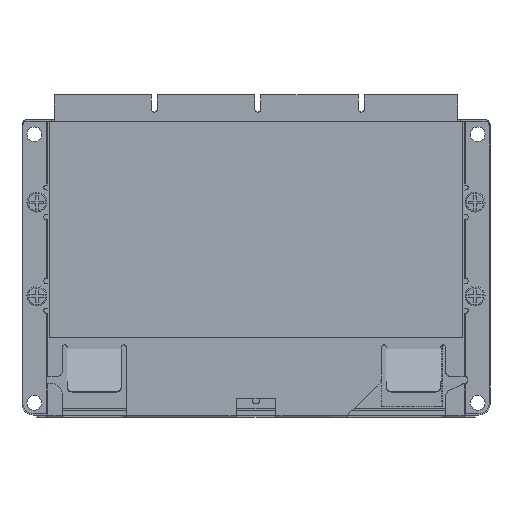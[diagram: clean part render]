
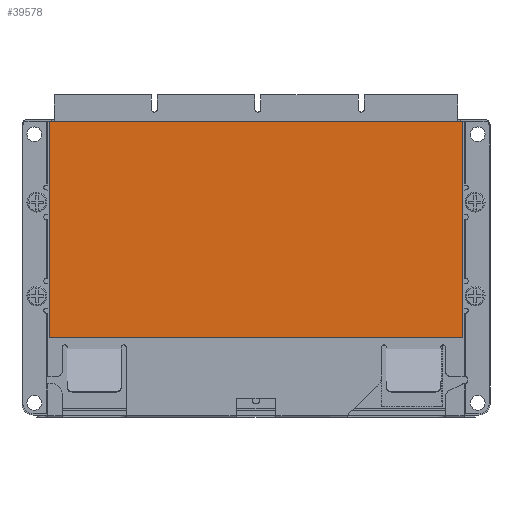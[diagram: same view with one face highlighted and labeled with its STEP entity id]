
A CAD part, front view. The second image highlights one B-rep face of the part: STEP entity #39578.
In plain terms, the highlighted planar face has unit normal (0, -1, 0).
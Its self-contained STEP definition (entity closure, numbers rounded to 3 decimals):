
#39463=DIRECTION('',(0.,0.,1.));
#39464=VECTOR('',#39463,44.);
#39465=CARTESIAN_POINT('',(-42.,-2.3,-49.3));
#39466=LINE('',#39465,#39464);
#39467=DIRECTION('',(1.,0.,0.));
#39468=VECTOR('',#39467,84.);
#39469=CARTESIAN_POINT('',(-42.,-2.3,-5.3));
#39470=LINE('',#39469,#39468);
#39471=DIRECTION('',(0.,0.,-1.));
#39472=VECTOR('',#39471,44.);
#39473=CARTESIAN_POINT('',(42.,-2.3,-5.3));
#39474=LINE('',#39473,#39472);
#39475=DIRECTION('',(-1.,0.,0.));
#39476=VECTOR('',#39475,84.);
#39477=CARTESIAN_POINT('',(42.,-2.3,-49.3));
#39478=LINE('',#39477,#39476);
#39487=CARTESIAN_POINT('',(-42.,-2.3,-5.3));
#39488=VERTEX_POINT('',#39487);
#39489=CARTESIAN_POINT('',(-42.,-2.3,-49.3));
#39490=VERTEX_POINT('',#39489);
#39491=CARTESIAN_POINT('',(42.,-2.3,-5.3));
#39492=VERTEX_POINT('',#39491);
#39493=CARTESIAN_POINT('',(42.,-2.3,-49.3));
#39494=VERTEX_POINT('',#39493);
#39567=CARTESIAN_POINT('',(0.,-2.3,0.));
#39568=DIRECTION('',(0.,-1.,0.));
#39569=DIRECTION('',(-1.,0.,0.));
#39570=AXIS2_PLACEMENT_3D('',#39567,#39568,#39569);
#39571=PLANE('',#39570);
#39572=ORIENTED_EDGE('',*,*,#39519,.T.);
#39573=ORIENTED_EDGE('',*,*,#39534,.T.);
#39574=ORIENTED_EDGE('',*,*,#39548,.T.);
#39575=ORIENTED_EDGE('',*,*,#39561,.T.);
#39576=EDGE_LOOP('',(#39572,#39573,#39574,#39575));
#39577=FACE_OUTER_BOUND('',#39576,.F.);
#39519=EDGE_CURVE('',#39490,#39488,#39466,.T.);
#39534=EDGE_CURVE('',#39488,#39492,#39470,.T.);
#39548=EDGE_CURVE('',#39492,#39494,#39474,.T.);
#39561=EDGE_CURVE('',#39494,#39490,#39478,.T.);
#39578=ADVANCED_FACE('',(#39577),#39571,.T.);
